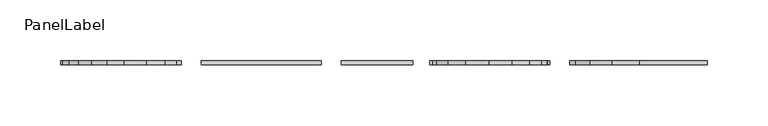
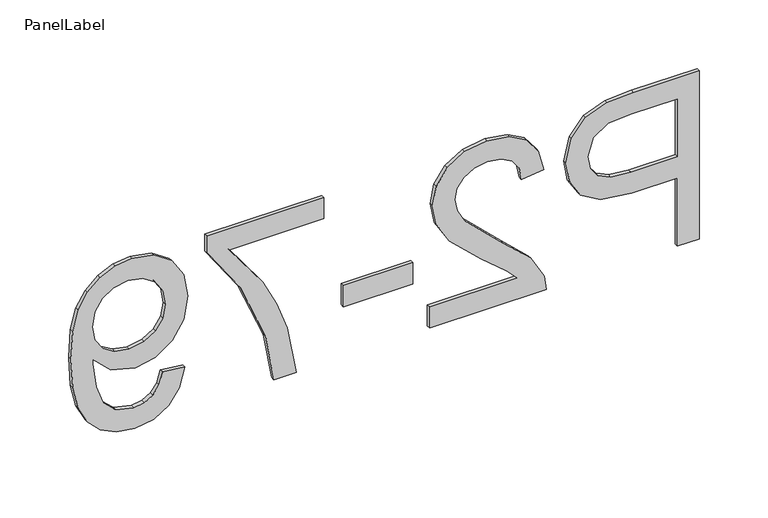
"""IFC4 building model written with IfcOpenShell, lengths in millimetres: fastener geometry, PanelLabel : Miranda."""

from ifc_helpers import new_model, si_unit, frame, origin, place, context, project, spatial, polyline, outline, extrude, source, transform, mapped, element, save


def panellabel_6e815555(model_context):
    return source(origin(), model_context, "Body", "SweptSolid", [
        extrude(outline(polyline([(1310.9113766, 260.2523077), (1460.9667612, 260.2523077), (1460.9667612, 204.6409615), (1459.5380112, 182.2205769), (1452.5224823, 163.9948558), (1438.0151747, 152.1801923), (1417.554742, 147.7107692), (1399.8693814, 150.7285457), (1385.1331073, 159.781875), (1375.1868093, 176.7116466), (1371.8713766, 203.35875), (1371.8713766, 241.4953846), (1310.9113766, 241.4953846), (1310.9113766, 260.2523077)]), holes=[polyline([(1390.6282997, 241.4953846), (1390.6282997, 202.2597115), (1392.3501266, 185.6275962), (1397.5156073, 174.6372115), (1405.8041891, 168.5100721), (1416.8953189, 166.4676923), (1432.4283958, 171.2851442), (1440.9276266, 183.9424038), (1442.2098381, 202.6993269), (1442.2098381, 241.4953846), (1390.6282997, 241.4953846)])]), frame((0.0, 60.325, 0.0), z_axis=(0.0, 1.0, 0.0), x_axis=(0.0, 0.0, 1.0)), (0.0, 0.0, 1.0), 3.175),
        extrude(outline(polyline([(1329.6682997, 32.8246154), (1310.9113766, 32.8246154), (1310.9113766, 131.2984615), (1323.8433958, 129.2835577), (1343.7543093, 117.8901923), (1365.4969535, 94.4074038), (1396.7462804, 62.0224038), (1407.5168573, 55.9502163), (1417.9943573, 53.9261538), (1427.3865569, 55.8357332), (1435.1943093, 61.5644712), (1440.4559559, 70.3705168), (1442.2098381, 81.5120192), (1440.4971698, 93.2121995), (1435.359165, 102.3021635), (1427.1988045, 108.1682813), (1416.4190689, 110.1969231), (1418.7636843, 128.9538462), (1436.9069775, 124.4065745), (1450.1595497, 114.5747596), (1458.2649583, 99.9712861), (1460.9667612, 81.1090385), (1457.9627227, 62.1094111), (1448.9506073, 47.5334135), (1435.4873862, 38.2602764), (1419.1300304, 35.1692308), (1401.3439247, 38.5029808), (1382.9533477, 49.5849519), (1357.254165, 76.4564423), (1339.211617, 98.0342308), (1329.6682997, 106.4968269), (1329.6682997, 32.8246154)])), frame((0.0, 60.325, 0.0), z_axis=(0.0, 1.0, 0.0), x_axis=(0.0, 0.0, 1.0)), (0.0, 0.0, 1.0), 3.175),
        extrude(outline(polyline([(-39.8584615, 63.5), (18.7569231, 63.5), (18.7569231, 60.325), (-39.8584615, 60.325), (-39.8584615, 63.5)])), frame((0.0, 0.0, 1355.4590689), z_axis=(0.0, 0.0, 1.0), x_axis=(1.0, 0.0, 0.0)), (0.0, 0.0, 1.0), 18.7569231),
        extrude(outline(polyline([(1439.8652227, -56.2707692), (1458.6221458, -56.2707692), (1458.6221458, -154.7446154), (1443.455415, -154.7446154), (1403.1023862, -126.8107212), (1351.6857035, -105.4344231), (1310.9113766, -98.4738462), (1310.9113766, -79.7169231), (1353.2243573, -87.1720673), (1377.5817972, -95.8498918), (1401.0508477, -107.6325), (1439.8652227, -135.9876923), (1439.8652227, -56.2707692)])), frame((0.0, 60.325, 0.0), z_axis=(0.0, 1.0, 0.0), x_axis=(0.0, 0.0, 1.0)), (0.0, 0.0, 1.0), 3.175),
        extrude(outline(polyline([(1348.4252227, -173.5015385), (1350.7698381, -192.2584615), (1340.122903, -195.4639904), (1332.8738285, -200.6844231), (1328.7112203, -207.7915385), (1327.3236843, -216.6571154), (1330.8955593, -231.8421635), (1340.4388766, -242.1364904), (1356.7412804, -248.2727885), (1378.502242, -250.98375), (1382.1657035, -250.8738462), (1367.9514727, -235.8719712), (1362.492915, -215.3016346), (1365.826665, -198.1978486), (1375.827915, -183.9607212), (1391.2785641, -174.3578726), (1410.9605112, -171.1569231), (1431.2927227, -174.5135697), (1447.2287804, -184.5835096), (1457.532266, -199.7090264), (1460.9667612, -218.2324038), (1459.0068093, -232.2222476), (1453.1269535, -244.9573558), (1443.6202708, -255.6088702), (1430.7798381, -263.3479327), (1413.030367, -268.0600601), (1388.7965689, -269.6307692), (1363.1019655, -268.0646394), (1343.2414247, -263.36625), (1328.3173982, -255.5768149), (1317.4323381, -244.7375481), (1310.7831554, -231.3155409), (1308.5667612, -215.7778846), (1311.1815569, -199.7410817), (1319.0259439, -186.9464423), (1331.6053549, -177.9984375), (1348.4252227, -173.5015385)]), holes=[polyline([(1411.4001266, -250.8738462), (1424.1123381, -248.8497837), (1433.8937804, -242.7775962), (1440.1308237, -233.3533413), (1442.2098381, -221.2730769), (1439.9705472, -208.7440385), (1433.2526747, -198.7061538), (1422.9720857, -192.1119231), (1410.0446458, -189.9138462), (1398.4543694, -191.9928606), (1389.2545016, -198.2299038), (1383.251004, -208.0205048), (1381.2498381, -220.7601923), (1383.251004, -232.7442909), (1389.2545016, -242.3929327), (1398.7932396, -248.7536178), (1411.4001266, -250.8738462)])]), frame((0.0, 60.325, 0.0), z_axis=(0.0, 1.0, 0.0), x_axis=(0.0, 0.0, 1.0)), (0.0, 0.0, 1.0), 3.175),
    ])


if __name__ == "__main__":
    model = new_model("IFC4")
    model_context = context("Model", 3, world=origin())
    ifc_project = project(units=[si_unit("LENGTHUNIT", "METRE", prefix="MILLI")], contexts=[model_context])
    site = spatial("IfcSite", under=ifc_project)
    building = spatial("IfcBuilding", under=site)
    placement = place(None, origin())
    panellabel_shape = panellabel_6e815555(model_context)
    element("IfcFastener", 1, ObjectType="PanelLabel : Miranda", at=placement, inside=building, context=model_context, shape_type="MappedRepresentation", body=[
        mapped(panellabel_shape, transform((0.0, 0.0, 0.0), x_axis=(1.0, 0.0, 0.0), y_axis=(0.0, 1.0, 0.0), z_axis=(0.0, 0.0, 1.0))),
    ])
    save(model, "model.ifc")
